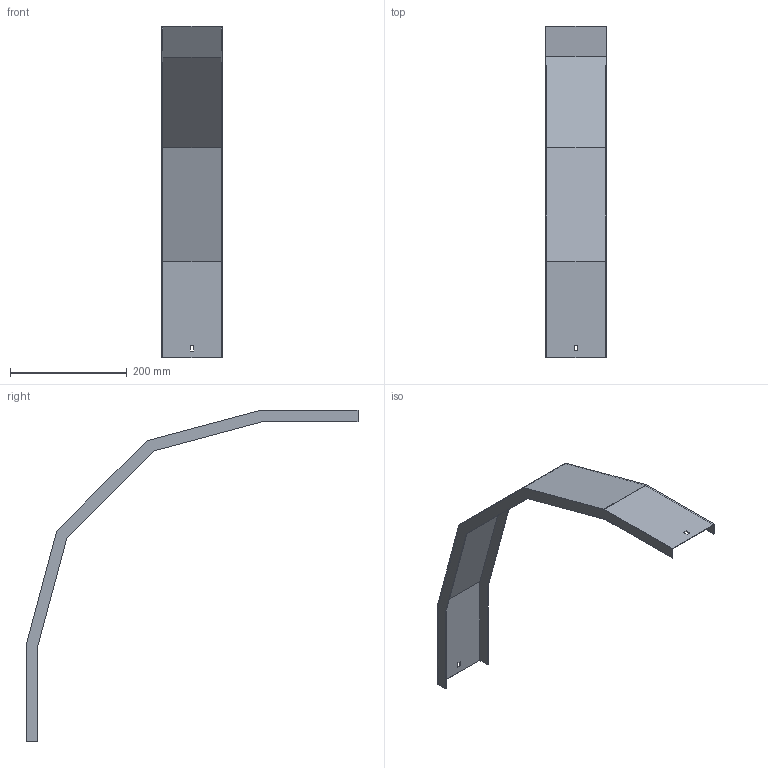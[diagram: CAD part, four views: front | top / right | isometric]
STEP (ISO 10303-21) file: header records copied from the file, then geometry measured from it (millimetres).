
FILE_DESCRIPTION (( 'STEP AP214' ), '1' );
FILE_NAME ('A2_33N3D100.step', '2025-02-21T10:44:49', ( '' ), ( '' ), 'SwSTEP 2.0', 'SolidWorks 2023', '' );
FILE_SCHEMA (( 'AUTOMOTIVE_DESIGN' ));
Length unit declared in the file: millimetre
Products named in the file (1): A2_33N3D100
Bounding box: 103 x 569.61 x 569.61 mm (x, y, z)
Volume: 199648.9 mm3; surface area: 269490.2 mm2
Topology: 1 solids, 1 shells, 34 faces, 96 edges, 64 vertices
Faces by surface type: plane 34
Entity records: 1111 total; most frequent: CARTESIAN_POINT 195, ORIENTED_EDGE 192, DIRECTION 166, VECTOR 96, LINE 96, EDGE_CURVE 96, VERTEX_POINT 64, EDGE_LOOP 38
